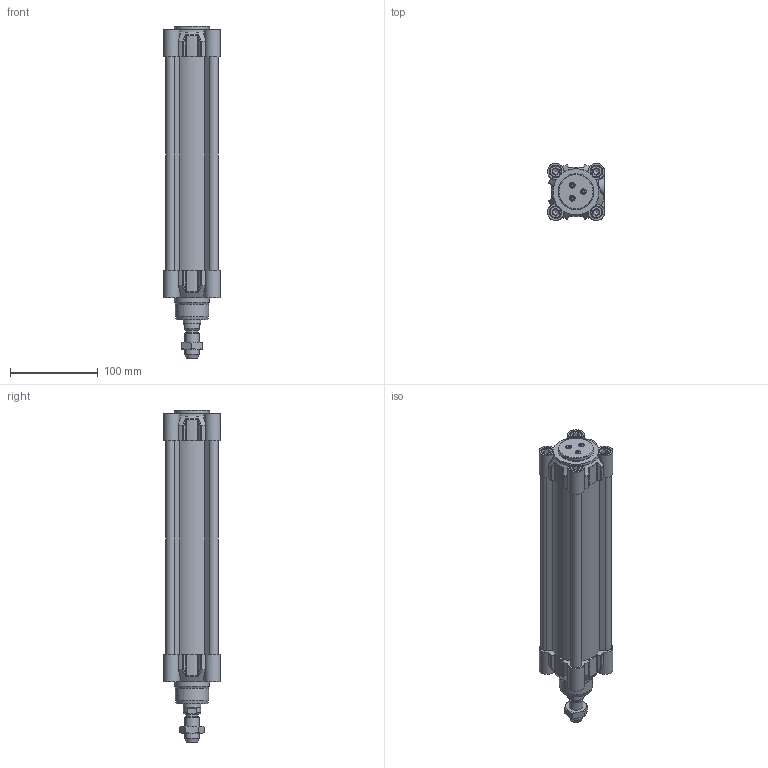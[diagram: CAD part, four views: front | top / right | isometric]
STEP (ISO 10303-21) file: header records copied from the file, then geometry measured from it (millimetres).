
FILE_DESCRIPTION(/* description */ ('Unknown'),/* implementation_level */ '2;1');
FILE_NAME(/* name */ 'HIFO 50_200',/* time_stamp */ '2024-08-14T11:03:08+02:00',/* author */ ('Unknown'),/* organization */ ('Unknown'),/* preprocessor_version */ 'ST-DEVELOPER v16.7',/* originating_system */ 'Solid Edge',/* authorisation */ 'Unknown');
FILE_SCHEMA (('AUTOMOTIVE_DESIGN {1 0 10303 214 3 1 1}'));
Length unit declared in the file: millimetre
Products named in the file (6): HIFO 50_200; Profilrohr 50_200; Mutter; Kolbenstange 50_200; Kit_1; Kit_2
Assembly tree (5 placements, depth 2):
  HIFO 50_200
    Profilrohr 50_200
    Mutter
    Kolbenstange 50_200
    Kit_1
    Kit_2
Bounding box: 65 x 65 x 379 mm (x, y, z)
Volume: 581513.7 mm3; surface area: 244038.1 mm2
Topology: 5 solids, 16 shells, 1046 faces, 2632 edges, 1689 vertices
Faces by surface type: plane 394, cylinder 364, cone 103, torus 97, bspline 58, sphere 30
Full cylindrical faces by diameter (mm): 1.479 x1, 2.8 x1, 3 x3, 3.5 x3, 6 x3, 6.647 x16, 8 x8, 8.3 x8, 9 x1, 9.9 x1, 10 x3, 11.44 x1, 11.445 x2, 13 x8, 13.3 x4, 13.5 x1, 14.376 x1, 16 x1, 19.5 x1, 20 x2, 20.5 x1, 20.8 x1, 20.847 x1, 24 x1, 30 x2, 38 x1, 40 x2, 50 x2
Entity records: 39975 total; most frequent: CARTESIAN_POINT 9607, ORIENTED_EDGE 5100, DIRECTION 4814, EDGE_CURVE 2550, AXIS2_PLACEMENT_3D 1863, VERTEX_POINT 1672, FACE_BOUND 1208, EDGE_LOOP 1200
